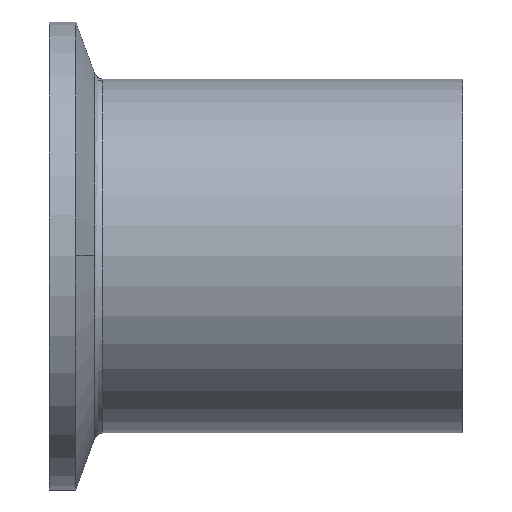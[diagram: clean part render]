
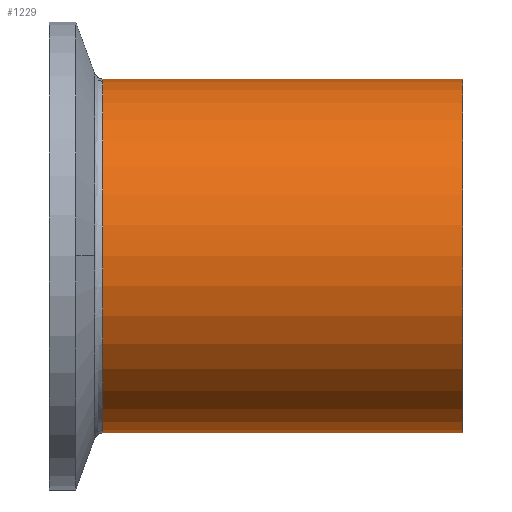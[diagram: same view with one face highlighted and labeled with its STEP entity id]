
A CAD part, top view. The second image highlights one B-rep face of the part: STEP entity #1229.
In plain terms, the highlighted cylindrical face has radius 19.05 mm (diameter 38.1 mm), a partial arc.
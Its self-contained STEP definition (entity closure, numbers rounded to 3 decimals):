
#43 = CYLINDRICAL_SURFACE ( 'NONE', #1432, 19.05 ) ;
#53 = AXIS2_PLACEMENT_3D ( 'NONE', #1038, #381, #1153 ) ;
#139 = VERTEX_POINT ( 'NONE', #1300 ) ;
#308 = VECTOR ( 'NONE', #544, 1000. ) ;
#355 = DIRECTION ( 'NONE',  ( 0., 1., 0. ) ) ;
#370 = CARTESIAN_POINT ( 'NONE',  ( -38.778, 19.05, 0. ) ) ;
#381 = DIRECTION ( 'NONE',  ( 1., 0., 0. ) ) ;
#399 = ORIENTED_EDGE ( 'NONE', *, *, #547, .T. ) ;
#466 = CARTESIAN_POINT ( 'NONE',  ( 45.786, 0., 0. ) ) ;
#512 = CARTESIAN_POINT ( 'NONE',  ( 0., -19.05, 0. ) ) ;
#536 = VERTEX_POINT ( 'NONE', #996 ) ;
#544 = DIRECTION ( 'NONE',  ( 1., 0., 0. ) ) ;
#547 = EDGE_CURVE ( 'NONE', #536, #926, #556, .T. ) ;
#556 = LINE ( 'NONE', #1346, #1396 ) ;
#582 = DIRECTION ( 'NONE',  ( 1., 0., 0. ) ) ;
#649 = EDGE_LOOP ( 'NONE', ( #1418, #399, #1310, #1017 ) ) ;
#650 = FACE_OUTER_BOUND ( 'NONE', #649, .T. ) ;
#689 = DIRECTION ( 'NONE',  ( 1., 0., 0. ) ) ;
#709 = CIRCLE ( 'NONE', #53, 19.05 ) ;
#712 = VERTEX_POINT ( 'NONE', #370 ) ;
#763 = EDGE_CURVE ( 'NONE', #139, #926, #709, .T. ) ;
#893 = DIRECTION ( 'NONE',  ( 1., 0., 0. ) ) ;
#899 = EDGE_CURVE ( 'NONE', #712, #139, #1157, .T. ) ;
#926 = VERTEX_POINT ( 'NONE', #512 ) ;
#965 = CIRCLE ( 'NONE', #1204, 19.05 ) ;
#996 = CARTESIAN_POINT ( 'NONE',  ( -38.778, -19.05, 0. ) ) ;
#1017 = ORIENTED_EDGE ( 'NONE', *, *, #899, .F. ) ;
#1038 = CARTESIAN_POINT ( 'NONE',  ( 0., 0., 0. ) ) ;
#1153 = DIRECTION ( 'NONE',  ( 0., 1., 0. ) ) ;
#1157 = LINE ( 'NONE', #1193, #308 ) ;
#1193 = CARTESIAN_POINT ( 'NONE',  ( 45.786, 19.05, 0. ) ) ;
#1204 = AXIS2_PLACEMENT_3D ( 'NONE', #1236, #582, #1351 ) ;
#1224 = EDGE_CURVE ( 'NONE', #712, #536, #965, .T. ) ;
#1229 = ADVANCED_FACE ( 'NONE', ( #650 ), #43, .T. ) ;
#1236 = CARTESIAN_POINT ( 'NONE',  ( -38.778, 0., 0. ) ) ;
#1300 = CARTESIAN_POINT ( 'NONE',  ( 0., 19.05, 0. ) ) ;
#1310 = ORIENTED_EDGE ( 'NONE', *, *, #763, .F. ) ;
#1346 = CARTESIAN_POINT ( 'NONE',  ( 45.786, -19.05, 0. ) ) ;
#1351 = DIRECTION ( 'NONE',  ( 0., 1., 0. ) ) ;
#1396 = VECTOR ( 'NONE', #893, 1000. ) ;
#1418 = ORIENTED_EDGE ( 'NONE', *, *, #1224, .T. ) ;
#1432 = AXIS2_PLACEMENT_3D ( 'NONE', #466, #689, #355 ) ;
